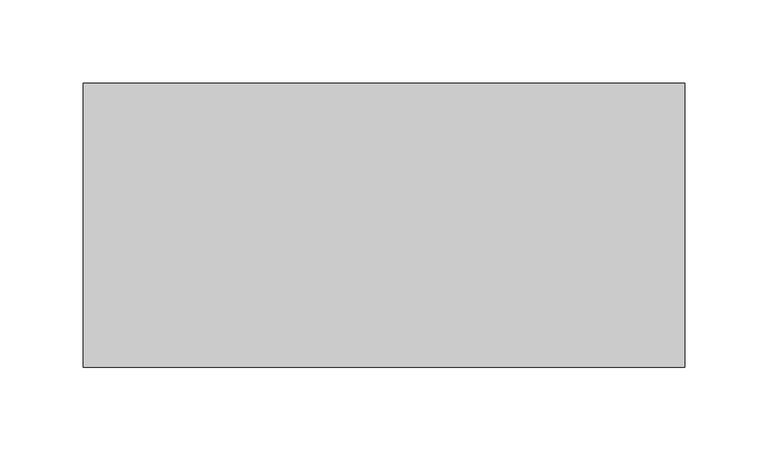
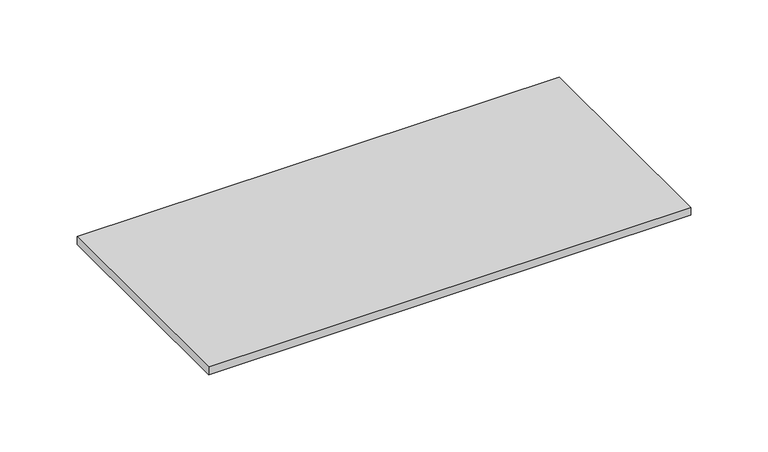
"""IFC4 building model written with IfcOpenShell, lengths in millimetres: beam geometry,  181370 :  181370."""

from ifc_helpers import new_model, si_unit, frame, origin, place, context, project, spatial, polyline, outline, extrude, source, transform, mapped, element, save


def beam_e52d324f(model_context):
    return source(origin(), model_context, "Body", "SweptSolid", [
        extrude(outline(polyline([(179.9999999, -28915.0), (179.9999999, -29085.0), (-180.0000001, -29085.0), (-180.0000001, -28915.0), (179.9999999, -28915.0)])), frame((0.0, 0.0, 7999.5841583), z_axis=(0.0, 0.0, 1.0), x_axis=(1.0, 0.0, 0.0)), (0.0, 0.0, 1.0), 6.0),
    ])


if __name__ == "__main__":
    model = new_model("IFC4")
    model_context = context("Model", 3, world=origin())
    ifc_project = project(units=[si_unit("LENGTHUNIT", "METRE", prefix="MILLI")], contexts=[model_context])
    site = spatial("IfcSite", under=ifc_project)
    building = spatial("IfcBuilding", under=site)
    placement = place(None, origin())
    beam_shape = beam_e52d324f(model_context)
    element("IfcBeam", 1, ObjectType=" 181370 :  181370", at=placement, inside=building, context=model_context, shape_type="MappedRepresentation", body=[
        mapped(beam_shape, transform((0.0, 0.0, 0.0), x_axis=(1.0, 0.0, 0.0), y_axis=(0.0, 1.0, 0.0), z_axis=(0.0, 0.0, 1.0))),
    ])
    save(model, "model.ifc")
